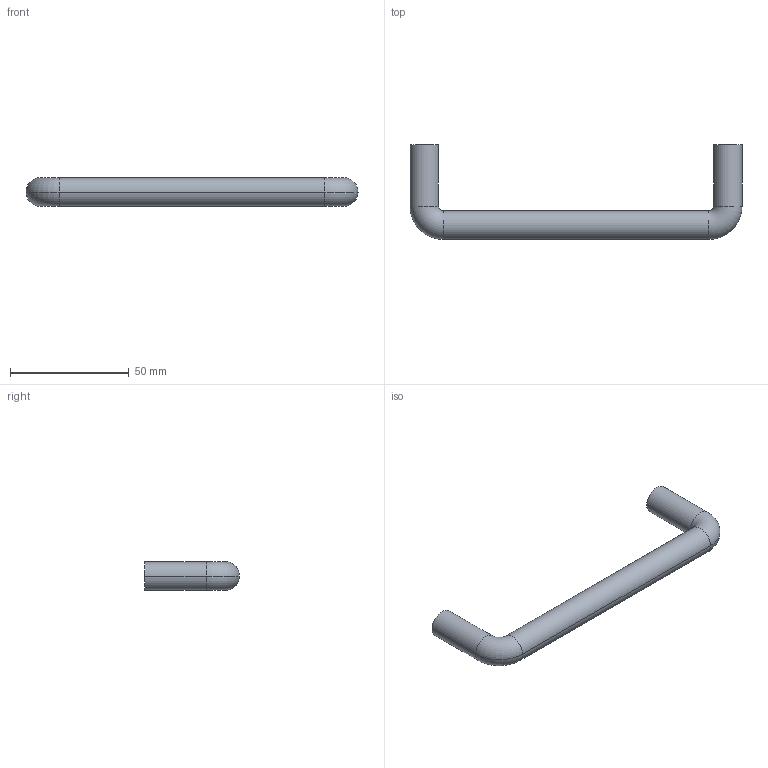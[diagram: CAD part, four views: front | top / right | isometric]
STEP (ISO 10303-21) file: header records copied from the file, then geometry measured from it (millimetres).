
FILE_DESCRIPTION( ( '' ), '1' );
FILE_NAME( 'C:/Documents and Settings/Sachin/Desktop/Sheet 10_1/stp/9070103.stp', '2013-10-22T07:21:43', ( '' ), ( '' ), ' ', ' ', ' ' );
FILE_SCHEMA( ( 'CONFIG_CONTROL_DESIGN' ) );
Length unit declared in the file: millimetre
Products named in the file (1): 1
Bounding box: 140 x 40 x 12 mm (x, y, z)
Volume: 21139.1 mm3; surface area: 7607.7 mm2
Topology: 1 solids, 1 shells, 18 faces, 34 edges, 20 vertices
Faces by surface type: cylinder 10, torus 4, plane 4
Entity records: 502 total; most frequent: DIRECTION 96, CARTESIAN_POINT 73, ORIENTED_EDGE 68, AXIS2_PLACEMENT_3D 43, EDGE_CURVE 34, CIRCLE 24, EDGE_LOOP 20, VERTEX_POINT 20
